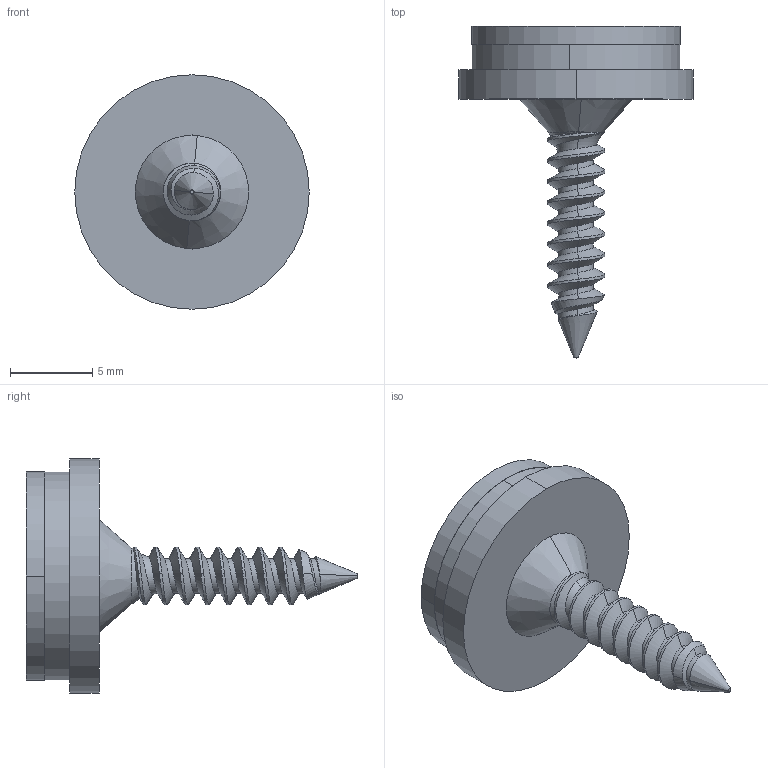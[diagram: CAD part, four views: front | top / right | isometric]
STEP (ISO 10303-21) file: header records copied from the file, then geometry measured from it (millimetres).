
FILE_DESCRIPTION (( 'STEP AP203' ), '1' );
FILE_NAME ('ML050.STEP', '2018-08-20T18:06:42', ( '' ), ( '' ), 'SwSTEP 2.0', 'SolidWorks 2015', '' );
FILE_SCHEMA (( 'CONFIG_CONTROL_DESIGN' ));
Length unit declared in the file: inch
Products named in the file (1): ML050
Bounding box: 14.29 x 20.22 x 14.29 mm (x, y, z)
Volume: 623.6 mm3; surface area: 1217.7 mm2
Topology: 4 solids, 4 shells, 102 faces, 258 edges, 165 vertices
Faces by surface type: cylinder 39, plane 26, bspline 19, cone 13, torus 5
Entity records: 4777 total; most frequent: CARTESIAN_POINT 2542, ORIENTED_EDGE 516, DIRECTION 361, EDGE_CURVE 258, VERTEX_POINT 165, AXIS2_PLACEMENT_3D 127, VECTOR 107, LINE 107
